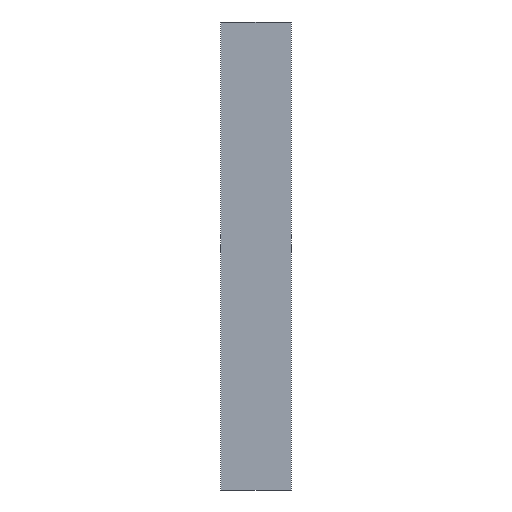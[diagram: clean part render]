
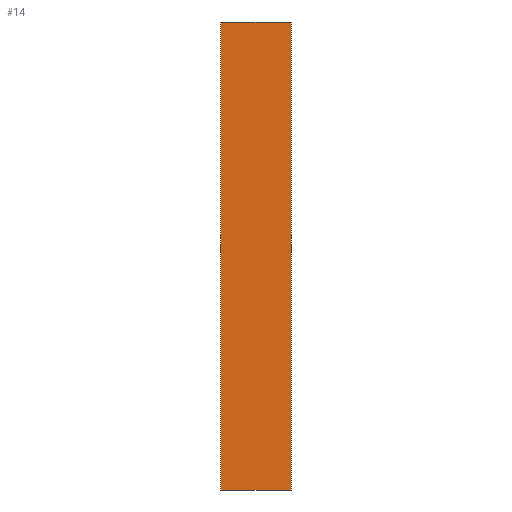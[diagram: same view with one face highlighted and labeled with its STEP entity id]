
A CAD part, front view. The second image highlights one B-rep face of the part: STEP entity #14.
In plain terms, the highlighted planar face has unit normal (0, -1, 0).
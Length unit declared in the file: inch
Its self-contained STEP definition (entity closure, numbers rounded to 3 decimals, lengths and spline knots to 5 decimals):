
#14=ADVANCED_FACE('',(#20),#88,.T.);
#20=FACE_OUTER_BOUND('',#26,.T.);
#26=EDGE_LOOP('',(#32,#33,#34,#35));
#32=ORIENTED_EDGE('',*,*,#56,.T.);
#33=ORIENTED_EDGE('',*,*,#65,.T.);
#34=ORIENTED_EDGE('',*,*,#60,.F.);
#35=ORIENTED_EDGE('',*,*,#64,.F.);
#56=EDGE_CURVE('',#80,#81,#68,.T.);
#60=EDGE_CURVE('',#84,#85,#72,.T.);
#64=EDGE_CURVE('',#80,#84,#76,.T.);
#65=EDGE_CURVE('',#81,#85,#77,.T.);
#68=B_SPLINE_CURVE_WITH_KNOTS('',1,(#217,#218),.UNSPECIFIED.,.F.,.F.,(2,
2),(0.,1.2),.UNSPECIFIED.);
#72=B_SPLINE_CURVE_WITH_KNOTS('',1,(#225,#226),.UNSPECIFIED.,.F.,.F.,(2,
2),(0.,1.2),.UNSPECIFIED.);
#76=B_SPLINE_CURVE_WITH_KNOTS('',1,(#233,#234),.UNSPECIFIED.,.F.,.F.,(2,
2),(0.,8.),.UNSPECIFIED.);
#77=B_SPLINE_CURVE_WITH_KNOTS('',1,(#235,#236),.UNSPECIFIED.,.F.,.F.,(2,
2),(0.,8.),.UNSPECIFIED.);
#80=VERTEX_POINT('',#209);
#81=VERTEX_POINT('',#210);
#84=VERTEX_POINT('',#213);
#85=VERTEX_POINT('',#214);
#88=PLANE('',#185);
#185=AXIS2_PLACEMENT_3D('',#203,#194,$);
#194=DIRECTION('',(0.,-1.,0.));
#203=CARTESIAN_POINT('',(0.,0.,0.));
#209=CARTESIAN_POINT('',(0.,0.,0.));
#210=CARTESIAN_POINT('',(1.2,0.,0.));
#213=CARTESIAN_POINT('',(0.,0.,8.));
#214=CARTESIAN_POINT('',(1.2,0.,8.));
#217=CARTESIAN_POINT('',(0.,0.,0.));
#218=CARTESIAN_POINT('',(1.2,0.,0.));
#225=CARTESIAN_POINT('',(0.,0.,8.));
#226=CARTESIAN_POINT('',(1.2,0.,8.));
#233=CARTESIAN_POINT('',(0.,0.,0.));
#234=CARTESIAN_POINT('',(0.,0.,8.));
#235=CARTESIAN_POINT('',(1.2,0.,0.));
#236=CARTESIAN_POINT('',(1.2,0.,8.));
